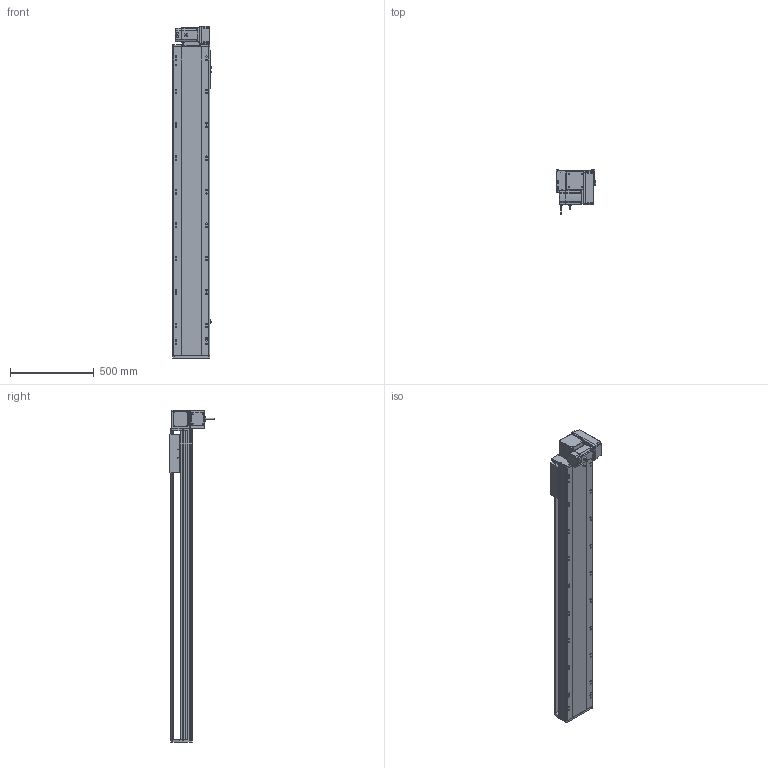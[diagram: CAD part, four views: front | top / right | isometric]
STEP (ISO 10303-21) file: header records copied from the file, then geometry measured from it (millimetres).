
FILE_DESCRIPTION (( 'STEP AP214' ), '1' );
FILE_NAME ('RTB22S-XX-1500-RM-M75-C4.STEP', '2025-12-12T07:50:21', ( '' ), ( '' ), 'SwSTEP 2.0', 'SolidWorks 2018', '' );
FILE_SCHEMA (( 'AUTOMOTIVE_DESIGN' ));
Length unit declared in the file: millimetre
Products named in the file (14): OMRON EE-SX672 传感器^RTB22S-XX-XX-RM-M75-C4; RTH22-GY-013外置感应片^RTB22S-XX-XX-RM-M75-C4; RTB22S-L-004賑釱^RTB22S-XX-XX-RM-M75-C4; RTB22S-GY-007奻裔^RTB22S-XX-XX-RM-M75-C4; RTB22S-GY-018P^RTB22S-RM-々湍釱蚾饜_RTB22S-XX-XX-RM-M75-C4; RTB22S-XX-1500-RM-M75-C4; RTB22S-GY-008-M75--萇儂啣^RTB22S-RM-々湍釱蚾饜_RTB22S-XX-XX-RM-M75-C4; RTB22S-L-011菁釱^RTB22S-XX-XX-RM-M75-C4; RTB22S-GY-005P^RTB22S-RM-々湍釱蚾饜_RTB22S-XX-XX-RM-M75-C4; 750W萇儂^RTB22S-XX-XX-RM-M75-C4; RTB22S-RM-々湍釱蚾饜^RTB22S-XX-XX-RM-M75-C4; RTB22S-GY-014--々湍釱^RTB22S-RM-々湍釱蚾饜_RTB22S-XX-XX-RM-M75-C4; RTB22S-GY-001耜裔^RTB22S-XX-XX-RM-M75-C4; RTB22S-GY-017P^RTB22S-RM-々湍釱蚾饜_RTB22S-XX-XX-RM-M75-C4
Assembly tree (16 placements, depth 3):
  RTB22S-XX-1500-RM-M75-C4
    RTB22S-L-011菁釱^RTB22S-XX-XX-RM-M75-C4
    RTB22S-GY-001耜裔^RTB22S-XX-XX-RM-M75-C4
    750W萇儂^RTB22S-XX-XX-RM-M75-C4
    RTB22S-GY-007奻裔^RTB22S-XX-XX-RM-M75-C4
    RTB22S-L-004賑釱^RTB22S-XX-XX-RM-M75-C4
    RTH22-GY-013外置感应片^RTB22S-XX-XX-RM-M75-C4
    OMRON EE-SX672 传感器^RTB22S-XX-XX-RM-M75-C4  x3
    RTB22S-RM-々湍釱蚾饜^RTB22S-XX-XX-RM-M75-C4
      RTB22S-GY-014--々湍釱^RTB22S-RM-々湍釱蚾饜_RTB22S-XX-XX-RM-M75-C4
      RTB22S-GY-017P^RTB22S-RM-々湍釱蚾饜_RTB22S-XX-XX-RM-M75-C4  x2
      RTB22S-GY-005P^RTB22S-RM-々湍釱蚾饜_RTB22S-XX-XX-RM-M75-C4
      RTB22S-GY-008-M75--萇儂啣^RTB22S-RM-々湍釱蚾饜_RTB22S-XX-XX-RM-M75-C4
      RTB22S-GY-018P^RTB22S-RM-々湍釱蚾饜_RTB22S-XX-XX-RM-M75-C4
Bounding box: 238.5 x 264.7 x 1987.5 mm (x, y, z)
Volume: 27112845.9 mm3; surface area: 2799232.4 mm2
Topology: 15 solids, 15 shells, 2019 faces, 5486 edges, 3512 vertices
Faces by surface type: plane 919, cylinder 646, bspline 296, cone 146, sphere 8, torus 4
Entity records: 54084 total; most frequent: CARTESIAN_POINT 15468, ORIENTED_EDGE 7744, DIRECTION 7486, EDGE_CURVE 3872, AXIS2_PLACEMENT_3D 2654, VERTEX_POINT 2516, LINE 2178, VECTOR 2178
